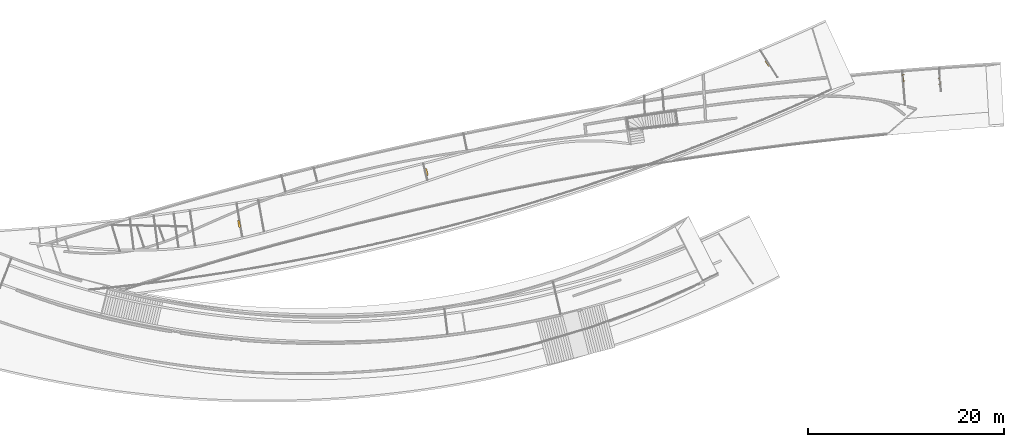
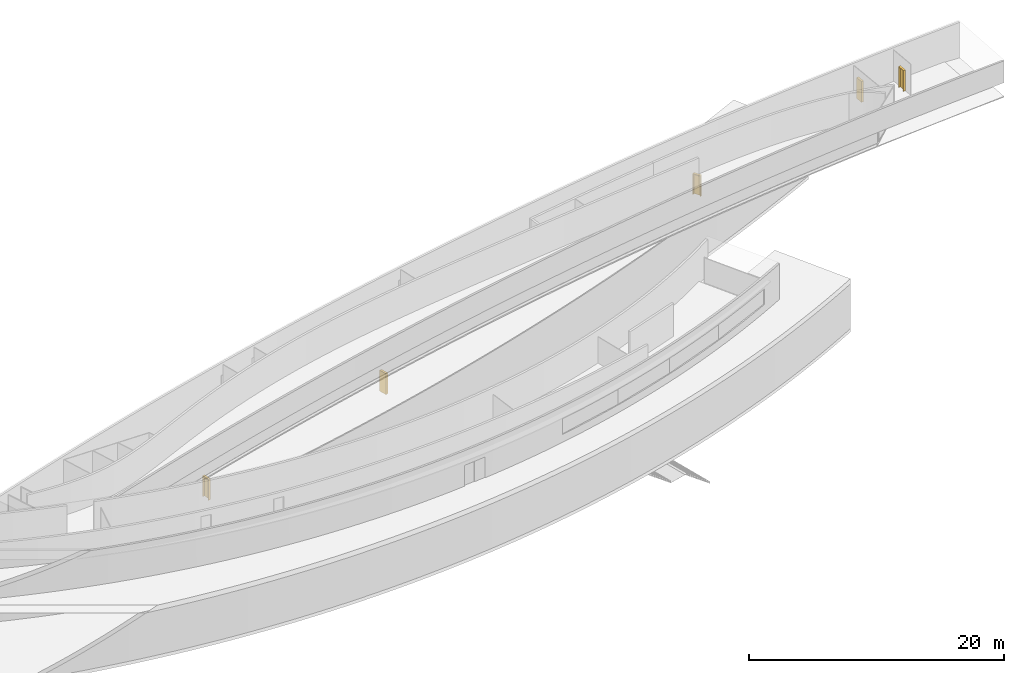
# Not in any storey, part 10 of 14: 5 doors.
"""IFC2X3 model written with IfcOpenShell, lengths in millimetres."""

from ifc_helpers import new_model, entity, si_unit, converted_unit, direction, frame, origin_with_axes, place, context, project, spatial, polyline, segment, composite_curve, outline, extrude, source, transform, mapped, type_object, element, save


model = new_model("IFC2X3")

# Units and contexts
model_context = context("Model", 3, precision=1.0, world=origin_with_axes(), true_north=direction((0.0, 1.0)))
ifc_project = project(units=[si_unit("LENGTHUNIT", "METRE", prefix="MILLI"), converted_unit("PLANEANGLEUNIT", "DEGREE", entity("IfcRatioMeasure", 0.017453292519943), si_unit("PLANEANGLEUNIT", "RADIAN"), dimensions=[0, 0, 0, 0, 0, 0, 0])], contexts=[model_context])

# Site
site_placement = place(None, origin_with_axes())
site = spatial("IfcSite", under=ifc_project, at=site_placement, Name="Site", CompositionType="ELEMENT")

# Doors
door_style_1 = type_object("IfcDoorStyle", Name="Hinged (001)", ConstructionType="NOTDEFINED", OperationType="SINGLE_SWING_RIGHT", ParameterTakesPrecedence=True, Sizeable=False)
shared_shape_1 = source(origin_with_axes(), model_context, "Body", "SweptSolid", [
    extrude(outline(composite_curve([segment(polyline([(0.0, 0.0), (0.0, 1950.0)]), True, "CONTINUOUS"), segment(polyline([(0.0, 1950.0), (600.0, 1950.0)]), True, "CONTINUOUS"), segment(polyline([(600.0, 1950.0), (600.0, 0.0)]), True, "CONTINUOUS"), segment(polyline([(600.0, 0.0), (650.0, 0.0)]), True, "CONTINUOUS"), segment(polyline([(650.0, 0.0), (650.0, 2000.0)]), True, "CONTINUOUS"), segment(polyline([(650.0, 2000.0), (-50.0, 2000.0)]), True, "CONTINUOUS"), segment(polyline([(-50.0, 2000.0), (-50.0, 0.0)]), True, "CONTINUOUS"), segment(polyline([(-50.0, 0.0), (0.0, 0.0)]), True, "CONTINUOUS")], self_intersect=False)), frame((300.0, -100.0, 0.0), z_axis=(0.0, 1.0, 0.0), x_axis=(-1.0, 0.0, 0.0)), (0.0, 0.0, 1.0), 199.999999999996),
    extrude(outline(composite_curve([segment(polyline([(0.0, 0.0), (0.0, 1950.0)]), True, "CONTINUOUS"), segment(polyline([(0.0, 1950.0), (-600.0, 1950.0)]), True, "CONTINUOUS"), segment(polyline([(-600.0, 1950.0), (-600.0, 0.0)]), True, "CONTINUOUS"), segment(polyline([(-600.0, 0.0), (0.0, 0.0)]), True, "CONTINUOUS")], self_intersect=False)), frame((-300.000000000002, 59.9999999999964, 0.0), z_axis=(9.1e-14, 1.0, 0.0), x_axis=(-1.0, 9.1e-14, 0.0)), (0.0, 0.0, 1.0), 40.0000000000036),
])
for number, where, z_axis, x_axis in (
    (1, (41936.4903251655, 13093.946959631, 9850.0), (0.0, 0.0, 1.0), (-0.084519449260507, 0.996421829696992, 0.0)),
    (2, (-25885.5638996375, -1807.26372233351, 4500.0), (0.0, 0.0, 1.0), (0.166578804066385, -0.986028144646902, 0.0)),
    (3, (28034.0236393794, 14570.7816416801, 4720.0), (0.0, 0.0, 1.0), (0.536349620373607, -0.843995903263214, 0.0)),
):
    element("IfcDoor", number, at=place(site_placement, frame(where, z_axis=z_axis, x_axis=x_axis)), inside=site, type_object=door_style_1, ObjectType="Hinged (001)", OverallHeight=2000.0, OverallWidth=700.0, shape_type="MappedRepresentation", body=[
        mapped(shared_shape_1, transform((0.0, 0.0, 0.0), scale=-1.0, scale2=1.0, scale3=1.0, uniform=False)),
    ])
door_style_2 = type_object("IfcDoorStyle", Name="Hinged", ConstructionType="NOTDEFINED", OperationType="SINGLE_SWING_LEFT", ParameterTakesPrecedence=True, Sizeable=False)
shared_shape_2 = source(origin_with_axes(), model_context, "Body", "SweptSolid", [
    extrude(outline(composite_curve([segment(polyline([(0.0, 0.0), (0.0, 1950.0)]), True, "CONTINUOUS"), segment(polyline([(0.0, 1950.0), (600.0, 1950.0)]), True, "CONTINUOUS"), segment(polyline([(600.0, 1950.0), (600.0, 0.0)]), True, "CONTINUOUS"), segment(polyline([(600.0, 0.0), (650.0, 0.0)]), True, "CONTINUOUS"), segment(polyline([(650.0, 0.0), (650.0, 2000.0)]), True, "CONTINUOUS"), segment(polyline([(650.0, 2000.0), (-50.0, 2000.0)]), True, "CONTINUOUS"), segment(polyline([(-50.0, 2000.0), (-50.0, 0.0)]), True, "CONTINUOUS"), segment(polyline([(-50.0, 0.0), (0.0, 0.0)]), True, "CONTINUOUS")], self_intersect=False)), frame((300.0, -100.0, 0.0), z_axis=(-9e-15, 1.0, 0.0), x_axis=(-1.0, -9e-15, 0.0)), (0.0, 0.0, 1.0), 200.0),
    extrude(outline(composite_curve([segment(polyline([(0.0, 0.0), (0.0, 1950.0)]), True, "CONTINUOUS"), segment(polyline([(0.0, 1950.0), (-600.0, 1950.0)]), True, "CONTINUOUS"), segment(polyline([(-600.0, 1950.0), (-600.0, 0.0)]), True, "CONTINUOUS"), segment(polyline([(-600.0, 0.0), (0.0, 0.0)]), True, "CONTINUOUS")], self_intersect=False)), frame((-300.0, 60.0, 0.0), z_axis=(0.0, 1.0, 0.0), x_axis=(-1.0, 0.0, 0.0)), (0.0, 0.0, 1.0), 40.0000000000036),
])
for number, where, z_axis, x_axis in (
    (4, (45547.651475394, 12753.5947629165, 9850.0), (0.0, 0.0, 1.0), (0.07489535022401, -0.997191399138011, 0.0)),
    (5, (-6775.37052709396, 3477.51147737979, 4720.0), (0.0, 0.0, 1.0), (-0.246425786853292, 0.969161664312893, 0.0)),
):
    element("IfcDoor", number, at=place(site_placement, frame(where, z_axis=z_axis, x_axis=x_axis)), inside=site, type_object=door_style_2, ObjectType="Hinged", OverallHeight=2000.0, OverallWidth=700.0, shape_type="MappedRepresentation", body=[
        mapped(shared_shape_2, transform((0.0, 0.0, 0.0))),
    ])

save(model, "model.ifc")
